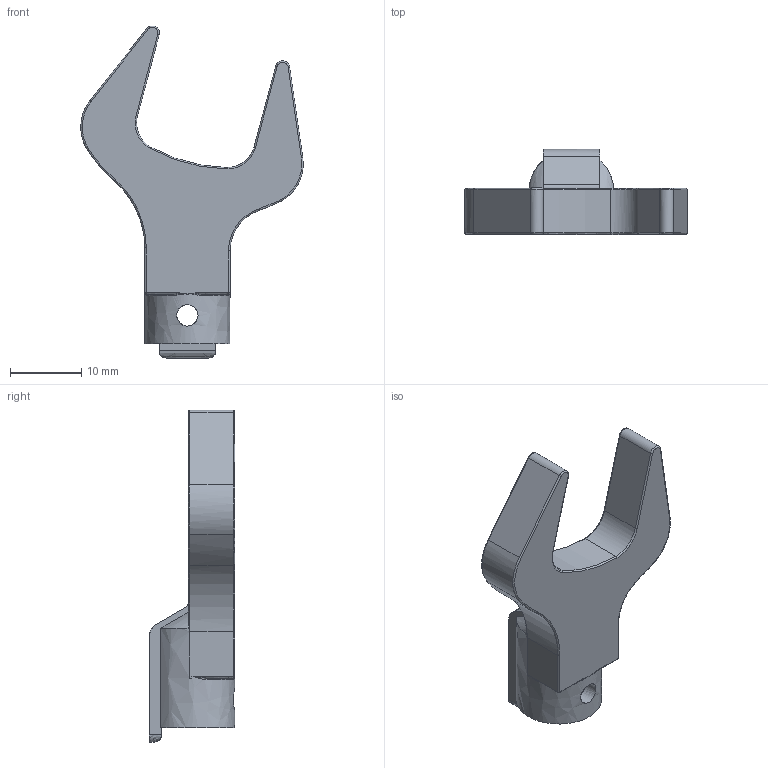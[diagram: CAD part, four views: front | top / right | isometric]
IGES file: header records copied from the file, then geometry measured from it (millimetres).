
Global section: file name: SH8DX17; native system: Autodesk Inventor 2016; preprocessor: unknown; author: Q600; date: 20151029.200009; units: millimetre
Bounding box: 31.32 x 12 x 46.75 mm (x, y, z)
Volume: 4073.7 mm3; surface area: 2583.5 mm2
Topology: 1 solids, 1 shells, 93 faces, 235 edges, 137 vertices
Faces by surface type: bspline 93
